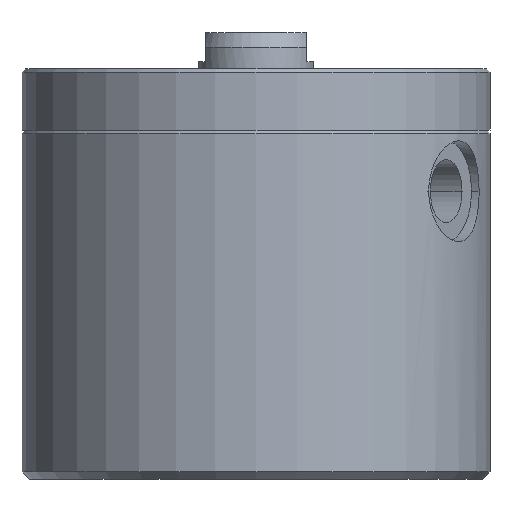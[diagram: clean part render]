
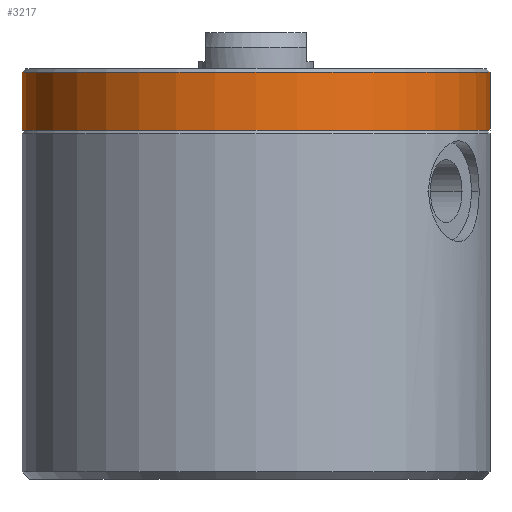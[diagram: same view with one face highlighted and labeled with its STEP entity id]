
A CAD part, front view. The second image highlights one B-rep face of the part: STEP entity #3217.
In plain terms, the highlighted cylindrical face has radius 32.5 mm (diameter 65 mm), a partial arc.
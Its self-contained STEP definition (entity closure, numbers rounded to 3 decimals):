
#26 = ORIENTED_EDGE ( 'NONE', *, *, #2456, .T. ) ;
#74 = CARTESIAN_POINT ( 'NONE',  ( -32.5, 0., 56.5 ) ) ;
#84 = DIRECTION ( 'NONE',  ( 0., 0., 1. ) ) ;
#161 = CARTESIAN_POINT ( 'NONE',  ( 0., 0., 57. ) ) ;
#477 = ORIENTED_EDGE ( 'NONE', *, *, #3053, .T. ) ;
#761 = CYLINDRICAL_SURFACE ( 'NONE', #1040, 32.5 ) ;
#798 = FACE_OUTER_BOUND ( 'NONE', #3094, .T. ) ;
#838 = CIRCLE ( 'NONE', #1180, 32.5 ) ;
#847 = CIRCLE ( 'NONE', #1195, 32.5 ) ;
#986 = CARTESIAN_POINT ( 'NONE',  ( 32.5, 0., 48.5 ) ) ;
#1040 = AXIS2_PLACEMENT_3D ( 'NONE', #161, #2435, #2974 ) ;
#1180 = AXIS2_PLACEMENT_3D ( 'NONE', #1184, #2370, #2075 ) ;
#1184 = CARTESIAN_POINT ( 'NONE',  ( 0., 0., 56.5 ) ) ;
#1195 = AXIS2_PLACEMENT_3D ( 'NONE', #1761, #84, #2910 ) ;
#1241 = VECTOR ( 'NONE', #1878, 1000. ) ;
#1249 = LINE ( 'NONE', #1931, #1241 ) ;
#1253 = VECTOR ( 'NONE', #1936, 1000. ) ;
#1266 = LINE ( 'NONE', #1890, #1253 ) ;
#1622 = VERTEX_POINT ( 'NONE', #986 ) ;
#1712 = CARTESIAN_POINT ( 'NONE',  ( 32.5, 0., 56.5 ) ) ;
#1761 = CARTESIAN_POINT ( 'NONE',  ( 0., 0., 48.5 ) ) ;
#1878 = DIRECTION ( 'NONE',  ( 0., 0., -1. ) ) ;
#1890 = CARTESIAN_POINT ( 'NONE',  ( 32.5, 0., 57. ) ) ;
#1931 = CARTESIAN_POINT ( 'NONE',  ( -32.5, 0., 57. ) ) ;
#1936 = DIRECTION ( 'NONE',  ( 0., 0., -1. ) ) ;
#1948 = ORIENTED_EDGE ( 'NONE', *, *, #2451, .F. ) ;
#2075 = DIRECTION ( 'NONE',  ( 1., 0., 0. ) ) ;
#2370 = DIRECTION ( 'NONE',  ( 0., 0., -1. ) ) ;
#2435 = DIRECTION ( 'NONE',  ( 0., 0., -1. ) ) ;
#2451 = EDGE_CURVE ( 'NONE', #2990, #1622, #1266, .T. ) ;
#2456 = EDGE_CURVE ( 'NONE', #3268, #2637, #1249, .T. ) ;
#2637 = VERTEX_POINT ( 'NONE', #3022 ) ;
#2910 = DIRECTION ( 'NONE',  ( 1., 0., 0. ) ) ;
#2974 = DIRECTION ( 'NONE',  ( -1., 0., 0. ) ) ;
#2990 = VERTEX_POINT ( 'NONE', #1712 ) ;
#3022 = CARTESIAN_POINT ( 'NONE',  ( -32.5, 0., 48.5 ) ) ;
#3053 = EDGE_CURVE ( 'NONE', #2990, #3268, #838, .T. ) ;
#3060 = EDGE_CURVE ( 'NONE', #2637, #1622, #847, .T. ) ;
#3094 = EDGE_LOOP ( 'NONE', ( #1948, #477, #26, #3170 ) ) ;
#3170 = ORIENTED_EDGE ( 'NONE', *, *, #3060, .T. ) ;
#3217 = ADVANCED_FACE ( 'NONE', ( #798 ), #761, .T. ) ;
#3268 = VERTEX_POINT ( 'NONE', #74 ) ;
